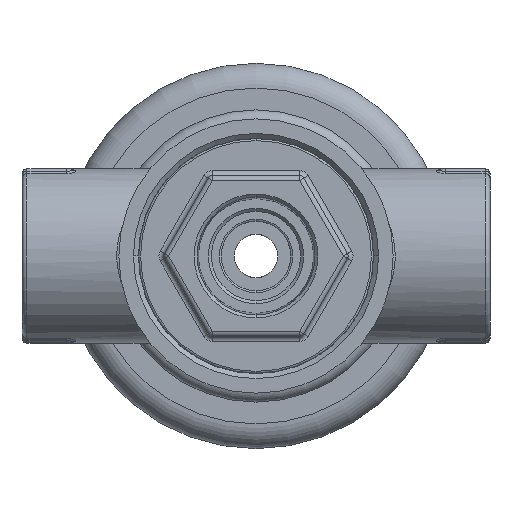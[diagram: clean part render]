
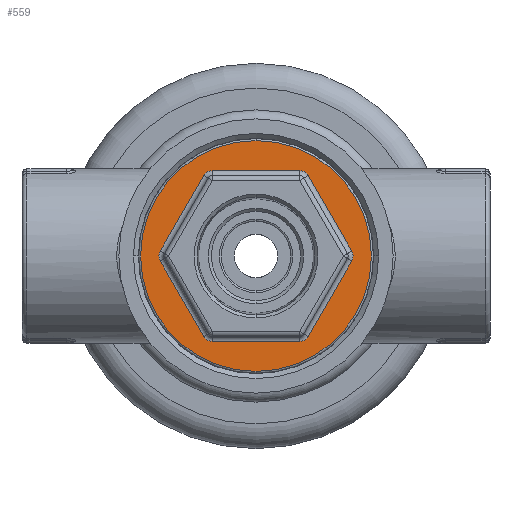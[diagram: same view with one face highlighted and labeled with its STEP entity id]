
A CAD part, front view. The second image highlights one B-rep face of the part: STEP entity #559.
In plain terms, the highlighted planar face has unit normal (0, -1, 0).
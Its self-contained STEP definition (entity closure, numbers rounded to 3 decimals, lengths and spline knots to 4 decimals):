
#559 = ADVANCED_FACE ( 'NONE', ( #32772, #32723 ), #31095, .T. ) ;
#3600 = EDGE_CURVE ( 'NONE', #13716, #13717, #8777, .T. ) ;
#3709 = EDGE_CURVE ( 'NONE', #13770, #13772, #9085, .T. ) ;
#3711 = EDGE_CURVE ( 'NONE', #13770, #13771, #9093, .T. ) ;
#3713 = EDGE_CURVE ( 'NONE', #13774, #13771, #9089, .T. ) ;
#3716 = EDGE_CURVE ( 'NONE', #13774, #13769, #9105, .T. ) ;
#3718 = EDGE_CURVE ( 'NONE', #13765, #13769, #9097, .T. ) ;
#3720 = EDGE_CURVE ( 'NONE', #13765, #13773, #9111, .T. ) ;
#3723 = EDGE_CURVE ( 'NONE', #13777, #13773, #9117, .T. ) ;
#3725 = EDGE_CURVE ( 'NONE', #13777, #13779, #9129, .T. ) ;
#3727 = EDGE_CURVE ( 'NONE', #13775, #13779, #9123, .T. ) ;
#3729 = EDGE_CURVE ( 'NONE', #13775, #13776, #9139, .T. ) ;
#3731 = EDGE_CURVE ( 'NONE', #13778, #13776, #9133, .T. ) ;
#3732 = EDGE_CURVE ( 'NONE', #13778, #13772, #9145, .T. ) ;
#3733 = EDGE_CURVE ( 'NONE', #13717, #13716, #9149, .T. ) ;
#5870 = EDGE_LOOP ( 'NONE', ( #18329, #18330, #18331, #18332, #18333, #18334, #18335, #18336, #18337, #18338, #18339, #18340 ) ) ;
#5881 = EDGE_LOOP ( 'NONE', ( #18327, #18328 ) ) ;
#8777 = CIRCLE ( 'NONE', #35180, 1.165 ) ;
#9085 = LINE ( 'NONE', #20369, #9091 ) ;
#9089 = LINE ( 'NONE', #20382, #9101 ) ;
#9091 = VECTOR ( 'NONE', #20357, 39.3701 ) ;
#9093 = CIRCLE ( 'NONE', #35322, 0.1 ) ;
#9097 = LINE ( 'NONE', #20393, #9115 ) ;
#9101 = VECTOR ( 'NONE', #20377, 39.3701 ) ;
#9105 = CIRCLE ( 'NONE', #35328, 0.1 ) ;
#9111 = CIRCLE ( 'NONE', #35335, 0.1 ) ;
#9115 = VECTOR ( 'NONE', #20389, 39.3701 ) ;
#9117 = LINE ( 'NONE', #20407, #9127 ) ;
#9123 = LINE ( 'NONE', #20418, #9137 ) ;
#9127 = VECTOR ( 'NONE', #20403, 39.3701 ) ;
#9129 = CIRCLE ( 'NONE', #35343, 0.1 ) ;
#9133 = LINE ( 'NONE', #20429, #9147 ) ;
#9137 = VECTOR ( 'NONE', #20414, 39.3701 ) ;
#9139 = CIRCLE ( 'NONE', #35350, 0.1 ) ;
#9145 = CIRCLE ( 'NONE', #35354, 0.1 ) ;
#9147 = VECTOR ( 'NONE', #20425, 39.3701 ) ;
#9149 = CIRCLE ( 'NONE', #35356, 1.165 ) ;
#13716 = VERTEX_POINT ( 'NONE', #39495 ) ;
#13717 = VERTEX_POINT ( 'NONE', #39496 ) ;
#13765 = VERTEX_POINT ( 'NONE', #39544 ) ;
#13769 = VERTEX_POINT ( 'NONE', #39548 ) ;
#13770 = VERTEX_POINT ( 'NONE', #39549 ) ;
#13771 = VERTEX_POINT ( 'NONE', #39550 ) ;
#13772 = VERTEX_POINT ( 'NONE', #39551 ) ;
#13773 = VERTEX_POINT ( 'NONE', #39552 ) ;
#13774 = VERTEX_POINT ( 'NONE', #39553 ) ;
#13775 = VERTEX_POINT ( 'NONE', #39554 ) ;
#13776 = VERTEX_POINT ( 'NONE', #39555 ) ;
#13777 = VERTEX_POINT ( 'NONE', #39556 ) ;
#13778 = VERTEX_POINT ( 'NONE', #39557 ) ;
#13779 = VERTEX_POINT ( 'NONE', #39558 ) ;
#18327 = ORIENTED_EDGE ( 'NONE', *, *, #3600, .T. ) ;
#18328 = ORIENTED_EDGE ( 'NONE', *, *, #3733, .T. ) ;
#18329 = ORIENTED_EDGE ( 'NONE', *, *, #3732, .F. ) ;
#18330 = ORIENTED_EDGE ( 'NONE', *, *, #3731, .T. ) ;
#18331 = ORIENTED_EDGE ( 'NONE', *, *, #3729, .F. ) ;
#18332 = ORIENTED_EDGE ( 'NONE', *, *, #3727, .T. ) ;
#18333 = ORIENTED_EDGE ( 'NONE', *, *, #3725, .F. ) ;
#18334 = ORIENTED_EDGE ( 'NONE', *, *, #3723, .T. ) ;
#18335 = ORIENTED_EDGE ( 'NONE', *, *, #3720, .F. ) ;
#18336 = ORIENTED_EDGE ( 'NONE', *, *, #3718, .T. ) ;
#18337 = ORIENTED_EDGE ( 'NONE', *, *, #3716, .F. ) ;
#18338 = ORIENTED_EDGE ( 'NONE', *, *, #3713, .T. ) ;
#18339 = ORIENTED_EDGE ( 'NONE', *, *, #3711, .F. ) ;
#18340 = ORIENTED_EDGE ( 'NONE', *, *, #3709, .T. ) ;
#20088 = CARTESIAN_POINT ( 'NONE',  ( 0., 0.637, 0. ) ) ;
#20089 = DIRECTION ( 'NONE',  ( 0., -1., 0. ) ) ;
#20090 = DIRECTION ( 'NONE',  ( 0., 0., -1. ) ) ;
#20357 = DIRECTION ( 'NONE',  ( 1., 0., 0. ) ) ;
#20369 = CARTESIAN_POINT ( 'NONE',  ( 1.235, 0.637, 0.8625 ) ) ;
#20377 = DIRECTION ( 'NONE',  ( 0.5, 0., 0.866 ) ) ;
#20378 = CARTESIAN_POINT ( 'NONE',  ( -0.4402, 0.637, 0.7625 ) ) ;
#20379 = DIRECTION ( 'NONE',  ( 0., -1., 0. ) ) ;
#20380 = DIRECTION ( 'NONE',  ( 0., 0., -1. ) ) ;
#20382 = CARTESIAN_POINT ( 'NONE',  ( -0.4382, 0.637, 0.966 ) ) ;
#20389 = DIRECTION ( 'NONE',  ( -0.5, 0., 0.866 ) ) ;
#20390 = CARTESIAN_POINT ( 'NONE',  ( -0.8805, 0.637, 0. ) ) ;
#20391 = DIRECTION ( 'NONE',  ( 0., -1., 0. ) ) ;
#20392 = DIRECTION ( 'NONE',  ( 0., 0., -1. ) ) ;
#20393 = CARTESIAN_POINT ( 'NONE',  ( -0.4382, 0.637, -0.966 ) ) ;
#20400 = CARTESIAN_POINT ( 'NONE',  ( -0.4402, 0.637, -0.7625 ) ) ;
#20401 = DIRECTION ( 'NONE',  ( 0., -1., 0. ) ) ;
#20402 = DIRECTION ( 'NONE',  ( 0., 0., -1. ) ) ;
#20403 = DIRECTION ( 'NONE',  ( -1., 0., 0. ) ) ;
#20407 = CARTESIAN_POINT ( 'NONE',  ( 1.235, 0.637, -0.8625 ) ) ;
#20414 = DIRECTION ( 'NONE',  ( -0.5, 0., -0.866 ) ) ;
#20415 = CARTESIAN_POINT ( 'NONE',  ( 0.4402, 0.637, -0.7625 ) ) ;
#20416 = DIRECTION ( 'NONE',  ( 0., -1., 0. ) ) ;
#20417 = DIRECTION ( 'NONE',  ( 0., 0., -1. ) ) ;
#20418 = CARTESIAN_POINT ( 'NONE',  ( 1.0557, 0.637, 0.1035 ) ) ;
#20425 = DIRECTION ( 'NONE',  ( 0.5, 0., -0.866 ) ) ;
#20426 = CARTESIAN_POINT ( 'NONE',  ( 0.8805, 0.637, 0. ) ) ;
#20427 = DIRECTION ( 'NONE',  ( 0., -1., 0. ) ) ;
#20428 = DIRECTION ( 'NONE',  ( 0., 0., -1. ) ) ;
#20429 = CARTESIAN_POINT ( 'NONE',  ( 1.0557, 0.637, -0.1035 ) ) ;
#20435 = CARTESIAN_POINT ( 'NONE',  ( 0.4402, 0.637, 0.7625 ) ) ;
#20436 = DIRECTION ( 'NONE',  ( 0., -1., 0. ) ) ;
#20437 = DIRECTION ( 'NONE',  ( 0., 0., -1. ) ) ;
#20438 = CARTESIAN_POINT ( 'NONE',  ( 0., 0.637, 0. ) ) ;
#20439 = DIRECTION ( 'NONE',  ( 0., -1., 0. ) ) ;
#20440 = DIRECTION ( 'NONE',  ( 0., 0., -1. ) ) ;
#31088 = CARTESIAN_POINT ( 'NONE',  ( 1.235, 0.637, 0. ) ) ;
#31095 = PLANE ( 'NONE',  #33736 ) ;
#31099 = DIRECTION ( 'NONE',  ( 0., -1., 0. ) ) ;
#31101 = DIRECTION ( 'NONE',  ( 0., 0., -1. ) ) ;
#32723 = FACE_BOUND ( 'NONE', #5870, .T. ) ;
#32772 = FACE_OUTER_BOUND ( 'NONE', #5881, .T. ) ;
#33736 = AXIS2_PLACEMENT_3D ( 'NONE', #31088, #31099, #31101 ) ;
#35180 = AXIS2_PLACEMENT_3D ( 'NONE', #20088, #20089, #20090 ) ;
#35322 = AXIS2_PLACEMENT_3D ( 'NONE', #20378, #20379, #20380 ) ;
#35328 = AXIS2_PLACEMENT_3D ( 'NONE', #20390, #20391, #20392 ) ;
#35335 = AXIS2_PLACEMENT_3D ( 'NONE', #20400, #20401, #20402 ) ;
#35343 = AXIS2_PLACEMENT_3D ( 'NONE', #20415, #20416, #20417 ) ;
#35350 = AXIS2_PLACEMENT_3D ( 'NONE', #20426, #20427, #20428 ) ;
#35354 = AXIS2_PLACEMENT_3D ( 'NONE', #20435, #20436, #20437 ) ;
#35356 = AXIS2_PLACEMENT_3D ( 'NONE', #20438, #20439, #20440 ) ;
#39495 = CARTESIAN_POINT ( 'NONE',  ( 0., 0.637, -1.165 ) ) ;
#39496 = CARTESIAN_POINT ( 'NONE',  ( 0., 0.637, 1.165 ) ) ;
#39544 = CARTESIAN_POINT ( 'NONE',  ( -0.5268, 0.637, -0.8125 ) ) ;
#39548 = CARTESIAN_POINT ( 'NONE',  ( -0.9671, 0.637, -0.05 ) ) ;
#39549 = CARTESIAN_POINT ( 'NONE',  ( -0.4402, 0.637, 0.8625 ) ) ;
#39550 = CARTESIAN_POINT ( 'NONE',  ( -0.5268, 0.637, 0.8125 ) ) ;
#39551 = CARTESIAN_POINT ( 'NONE',  ( 0.4402, 0.637, 0.8625 ) ) ;
#39552 = CARTESIAN_POINT ( 'NONE',  ( -0.4402, 0.637, -0.8625 ) ) ;
#39553 = CARTESIAN_POINT ( 'NONE',  ( -0.9671, 0.637, 0.05 ) ) ;
#39554 = CARTESIAN_POINT ( 'NONE',  ( 0.9671, 0.637, -0.05 ) ) ;
#39555 = CARTESIAN_POINT ( 'NONE',  ( 0.9671, 0.637, 0.05 ) ) ;
#39556 = CARTESIAN_POINT ( 'NONE',  ( 0.4402, 0.637, -0.8625 ) ) ;
#39557 = CARTESIAN_POINT ( 'NONE',  ( 0.5268, 0.637, 0.8125 ) ) ;
#39558 = CARTESIAN_POINT ( 'NONE',  ( 0.5268, 0.637, -0.8125 ) ) ;
